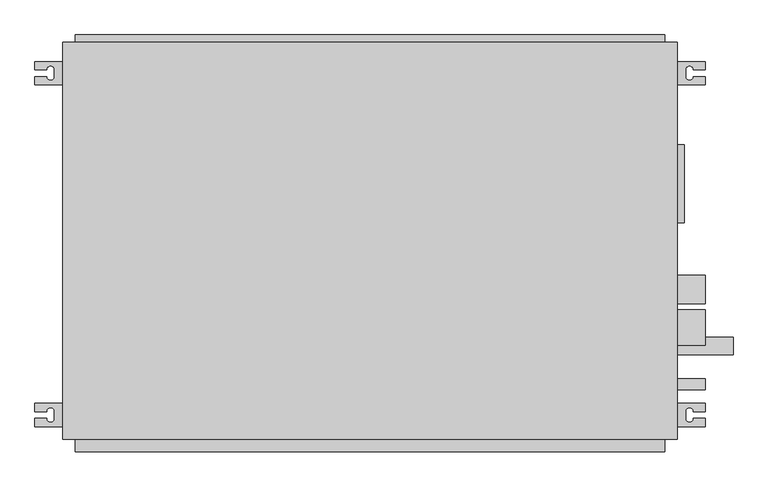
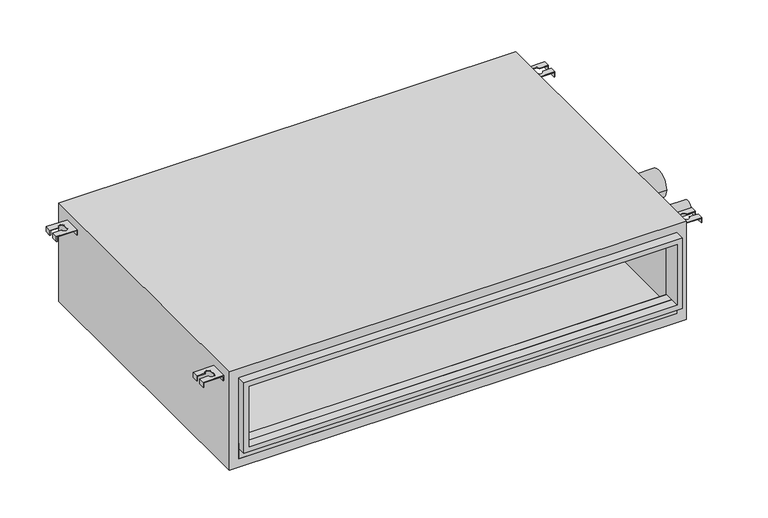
"""IFC4 building model written with IfcOpenShell, lengths in millimetres: proxy geometry, PEFY-P-NMAU-E_Medium_Static_Ducted : PEFY-P30NMAU-E."""

from ifc_helpers import new_model, si_unit, point, frame, frame_2d, origin, place, context, project, spatial, polyline, circle_curve, trimmed, segment, composite_curve, outline, extrude, source, transform, mapped, element, save
from ifc_brep_helpers import plane_surface, revolved_surface, advanced_brep


def mechanical_equipment_d42a0ae8(model_context):
    return source(origin(), model_context, "Body", "SolidModel", [
        advanced_brep(
        [(-610.087243, -231.05, 249.2375), (-610.087243, -246.05, 249.2375), (-589.080993, -246.05, 249.2375), (-575.080993, -246.05, 249.2375), (-575.080993, -258.05, 249.2375), (-589.080993, -258.05, 249.2375), (-610.087243, -258.05, 249.2375), (-610.087243, -273.05, 249.2375), (-560.080993, -273.05, 249.2375), (-560.080993, -231.05, 249.2375), (-610.087243, -231.05, 236.4972162), (-608.499243, -231.05, 236.4972162), (-608.499243, -246.05, 236.4972162), (-610.087243, -246.05, 236.4972162), (-608.499243, -273.05, 236.4972162), (-610.087243, -273.05, 236.4972162), (-610.087243, -258.05, 236.4972162), (-608.499243, -258.05, 236.4972162), (-560.080993, -231.05, 236.4972162), (-560.080993, -273.05, 236.4972162), (-561.668993, -273.05, 236.4972162), (-561.668993, -231.05, 236.4972162), (-608.499243, -246.05, 247.65), (-589.080993, -246.05, 247.65), (-608.499243, -231.05, 247.65), (-561.668993, -231.05, 247.65), (-608.499243, -258.05, 247.65), (-608.499243, -273.05, 247.65), (-589.080993, -258.05, 247.65), (-561.668993, -273.05, 247.65), (-575.080993, -258.05, 247.65), (-575.080993, -246.05, 247.65)],
        [
            (0, 1),
            (1, 2),
            (2, 3, circle_curve(frame((-582.080993, -246.05, 249.2375), z_axis=(0.0, 0.0, -1.0), x_axis=(1.0, 0.0, 0.0)), 7.0)),
            (3, 4),
            (4, 5, circle_curve(frame((-582.080993, -258.05, 249.2375), z_axis=(0.0, 0.0, -1.0), x_axis=(1.0, 0.0, 0.0)), 7.0)),
            (5, 6),
            (6, 7),
            (7, 8),
            (8, 9),
            (9, 0),
            (10, 11),
            (11, 12),
            (12, 13),
            (13, 10),
            (14, 15),
            (15, 16),
            (16, 17),
            (17, 14),
            (18, 19),
            (19, 20),
            (20, 21),
            (21, 18),
            (13, 1),
            (0, 10),
            (12, 22),
            (22, 23),
            (23, 2),
            (11, 24),
            (24, 22),
            (9, 18),
            (21, 25),
            (25, 24),
            (17, 26),
            (26, 27),
            (27, 14),
            (5, 28),
            (28, 26),
            (16, 6),
            (15, 7),
            (27, 29),
            (29, 20),
            (19, 8),
            (29, 25),
            (30, 31),
            (31, 23, circle_curve(frame((-582.080993, -246.05, 247.65), z_axis=(0.0, 0.0, 1.0), x_axis=(1.0, 0.0, 0.0)), 7.0)),
            (28, 30, circle_curve(frame((-582.080993, -258.05, 247.65), z_axis=(0.0, 0.0, 1.0), x_axis=(1.0, 0.0, 0.0)), 7.0)),
            (4, 30),
            (31, 3),
        ],
        [
            plane_surface(frame((-610.087243, -231.05, 249.2375), z_axis=(0.0, 0.0, 1.0), x_axis=(0.0, -1.0, 0.0))),
            plane_surface(frame((-610.087243, -231.05, 236.4972162), z_axis=(0.0, 0.0, -1.0), x_axis=(0.0, 1.0, 0.0))),
            plane_surface(frame((-610.087243, -231.05, 249.2375), z_axis=(-1.0, 0.0, 0.0), x_axis=(0.0, 0.0, -1.0))),
            plane_surface(frame((-610.087243, -246.05, 249.2375), z_axis=(0.0, -1.0, 0.0), x_axis=(0.0, 0.0, -1.0))),
            plane_surface(frame((-608.499243, -246.05, 249.2375), z_axis=(1.0, 0.0, 0.0), x_axis=(0.0, 0.0, -1.0))),
            plane_surface(frame((-608.499243, -231.05, 249.2375), z_axis=(0.0, 1.0, 0.0), x_axis=(0.0, 0.0, -1.0))),
            plane_surface(frame((-608.499243, -273.05, 249.2375), z_axis=(1.0, 0.0, 0.0), x_axis=(0.0, 0.0, -1.0))),
            plane_surface(frame((-608.499243, -258.05, 249.2375), z_axis=(0.0, 1.0, 0.0), x_axis=(0.0, 0.0, -1.0))),
            plane_surface(frame((-610.087243, -258.05, 249.2375), z_axis=(-1.0, 0.0, 0.0), x_axis=(0.0, 0.0, -1.0))),
            plane_surface(frame((-610.087243, -273.05, 249.2375), z_axis=(0.0, -1.0, 0.0), x_axis=(0.0, 0.0, -1.0))),
            plane_surface(frame((-561.668993, -231.05, 249.2375), z_axis=(-1.0, 0.0, 0.0), x_axis=(0.0, 0.0, -1.0))),
            plane_surface(frame((-560.080993, -273.05, 249.2375), z_axis=(1.0, 0.0, 0.0), x_axis=(0.0, 0.0, -1.0))),
            plane_surface(frame((-575.080993, -258.05, 247.65), z_axis=(0.0, 0.0, -1.0), x_axis=(0.0, 1.0, 0.0))),
            revolved_surface(polyline([(-575.080993, -258.05, 247.65), (-575.080993, -258.05, 249.2375)]), (-582.080993, -258.05, 247.65), (0.0, 0.0, -1.0)),
            revolved_surface(polyline([(-575.080993, -246.05, 247.65), (-575.080993, -246.05, 249.2375)]), (-582.080993, -246.05, 247.65), (0.0, 0.0, -1.0)),
            plane_surface(frame((-575.080993, -246.05, 249.2375), z_axis=(-1.0, 0.0, 0.0), x_axis=(0.0, 0.0, -1.0))),
        ],
        [
            (0, [[1, 2, 3, 4, 5, 6, 7, 8, 9, 10]]),
            (1, [[11, 12, 13, 14]]),
            (1, [[15, 16, 17, 18]]),
            (1, [[19, 20, 21, 22]]),
            (2, [[23, -1, 24, -14]]),
            (3, [[-2, -23, -13, 25, 26, 27]]),
            (4, [[-12, 28, 29, -25]]),
            (5, [[-10, 30, -22, 31, 32, -28, -11, -24]]),
            (6, [[-18, 33, 34, 35]]),
            (7, [[-6, 36, 37, -33, -17, 38]]),
            (8, [[39, -7, -38, -16]]),
            (9, [[-8, -39, -15, -35, 40, 41, -20, 42]]),
            (10, [[-21, -41, 43, -31]]),
            (11, [[-30, -9, -42, -19]]),
            (12, [[44, 45, -26, -29, -32, -43, -40, -34, -37, 46]]),
            (13, [[-5, 47, -46, -36]]),
            (14, [[-3, -27, -45, 48]]),
            (15, [[-4, -48, -44, -47]]),
        ],
    ),
        advanced_brep(
        [(590.062757, -231.05, 249.2375), (540.056507, -231.05, 249.2375), (540.056507, -273.05, 249.2375), (590.062757, -273.05, 249.2375), (590.062757, -258.05, 249.2375), (569.056507, -258.05, 249.2375), (555.056507, -258.05, 249.2375), (555.056507, -246.05, 249.2375), (569.056507, -246.05, 249.2375), (590.062757, -246.05, 249.2375), (590.062757, -231.05, 236.4972162), (590.062757, -246.05, 236.4972162), (588.474757, -246.05, 236.4972162), (588.474757, -231.05, 236.4972162), (588.474757, -273.05, 236.4972162), (588.474757, -258.05, 236.4972162), (590.062757, -258.05, 236.4972162), (590.062757, -273.05, 236.4972162), (540.056507, -231.05, 236.4972162), (541.644507, -231.05, 236.4972162), (541.644507, -273.05, 236.4972162), (540.056507, -273.05, 236.4972162), (569.056507, -246.05, 247.65), (588.474757, -246.05, 247.65), (588.474757, -231.05, 247.65), (541.644507, -231.05, 247.65), (588.474757, -273.05, 247.65), (588.474757, -258.05, 247.65), (569.056507, -258.05, 247.65), (541.644507, -273.05, 247.65), (555.056507, -258.05, 247.65), (555.056507, -246.05, 247.65)],
        [
            (0, 1),
            (1, 2),
            (2, 3),
            (3, 4),
            (4, 5),
            (5, 6, circle_curve(frame((562.056507, -258.05, 249.2375), z_axis=(0.0, 0.0, -1.0), x_axis=(-1.0, 0.0, 0.0)), 7.0)),
            (6, 7),
            (7, 8, circle_curve(frame((562.056507, -246.05, 249.2375), z_axis=(0.0, 0.0, -1.0), x_axis=(-1.0, 0.0, 0.0)), 7.0)),
            (8, 9),
            (9, 0),
            (10, 11),
            (11, 12),
            (12, 13),
            (13, 10),
            (14, 15),
            (15, 16),
            (16, 17),
            (17, 14),
            (18, 19),
            (19, 20),
            (20, 21),
            (21, 18),
            (10, 0),
            (9, 11),
            (8, 22),
            (22, 23),
            (23, 12),
            (23, 24),
            (24, 13),
            (24, 25),
            (25, 19),
            (18, 1),
            (14, 26),
            (26, 27),
            (27, 15),
            (4, 16),
            (27, 28),
            (28, 5),
            (3, 17),
            (2, 21),
            (20, 29),
            (29, 26),
            (25, 29),
            (30, 28, circle_curve(frame((562.056507, -258.05, 247.65), z_axis=(0.0, 0.0, 1.0), x_axis=(-1.0, 0.0, 0.0)), 7.0)),
            (22, 31, circle_curve(frame((562.056507, -246.05, 247.65), z_axis=(0.0, 0.0, 1.0), x_axis=(-1.0, 0.0, 0.0)), 7.0)),
            (31, 30),
            (30, 6),
            (7, 31),
        ],
        [
            plane_surface(frame((590.062757, -231.05, 249.2375), z_axis=(0.0, 0.0, 1.0), x_axis=(0.0, -1.0, 0.0))),
            plane_surface(frame((590.062757, -231.05, 236.4972162), z_axis=(0.0, 0.0, -1.0), x_axis=(0.0, 1.0, 0.0))),
            plane_surface(frame((590.062757, -231.05, 249.2375), z_axis=(1.0, 0.0, 0.0), x_axis=(0.0, 0.0, -1.0))),
            plane_surface(frame((590.062757, -246.05, 249.2375), z_axis=(0.0, -1.0, 0.0), x_axis=(0.0, 0.0, -1.0))),
            plane_surface(frame((588.474757, -246.05, 249.2375), z_axis=(-1.0, 0.0, 0.0), x_axis=(0.0, 0.0, -1.0))),
            plane_surface(frame((588.474757, -231.05, 249.2375), z_axis=(0.0, 1.0, 0.0), x_axis=(0.0, 0.0, -1.0))),
            plane_surface(frame((588.474757, -273.05, 249.2375), z_axis=(-1.0, 0.0, 0.0), x_axis=(0.0, 0.0, -1.0))),
            plane_surface(frame((588.474757, -258.05, 249.2375), z_axis=(0.0, 1.0, 0.0), x_axis=(0.0, 0.0, -1.0))),
            plane_surface(frame((590.062757, -258.05, 249.2375), z_axis=(1.0, 0.0, 0.0), x_axis=(0.0, 0.0, -1.0))),
            plane_surface(frame((590.062757, -273.05, 249.2375), z_axis=(0.0, -1.0, 0.0), x_axis=(0.0, 0.0, -1.0))),
            plane_surface(frame((541.644507, -231.05, 249.2375), z_axis=(1.0, 0.0, 0.0), x_axis=(0.0, 0.0, -1.0))),
            plane_surface(frame((540.056507, -273.05, 249.2375), z_axis=(-1.0, 0.0, 0.0), x_axis=(0.0, 0.0, -1.0))),
            plane_surface(frame((555.056507, -258.05, 247.65), z_axis=(0.0, 0.0, -1.0), x_axis=(0.0, 1.0, 0.0))),
            revolved_surface(polyline([(555.056507, -258.05, 247.65), (555.056507, -258.05, 249.2375)]), (562.056507, -258.05, 247.65), (0.0, 0.0, -1.0)),
            revolved_surface(polyline([(555.056507, -246.05, 247.65), (555.056507, -246.05, 249.2375)]), (562.056507, -246.05, 247.65), (0.0, 0.0, -1.0)),
            plane_surface(frame((555.056507, -246.05, 249.2375), z_axis=(1.0, 0.0, 0.0), x_axis=(0.0, 0.0, -1.0))),
        ],
        [
            (0, [[1, 2, 3, 4, 5, 6, 7, 8, 9, 10]]),
            (1, [[11, 12, 13, 14]]),
            (1, [[15, 16, 17, 18]]),
            (1, [[19, 20, 21, 22]]),
            (2, [[-11, 23, -10, 24]]),
            (3, [[25, 26, 27, -12, -24, -9]]),
            (4, [[-27, 28, 29, -13]]),
            (5, [[-23, -14, -29, 30, 31, -19, 32, -1]]),
            (6, [[33, 34, 35, -15]]),
            (7, [[36, -16, -35, 37, 38, -5]]),
            (8, [[-17, -36, -4, 39]]),
            (9, [[40, -21, 41, 42, -33, -18, -39, -3]]),
            (10, [[-31, 43, -41, -20]]),
            (11, [[-22, -40, -2, -32]]),
            (12, [[44, -37, -34, -42, -43, -30, -28, -26, 45, 46]]),
            (13, [[-38, -44, 47, -6]]),
            (14, [[48, -45, -25, -8]]),
            (15, [[-47, -46, -48, -7]]),
        ],
    ),
        advanced_brep(
        [(-610.087243, 339.0, 249.2375), (-560.080993, 339.0, 249.2375), (-560.080993, 381.0, 249.2375), (-610.087243, 381.0, 249.2375), (-610.087243, 366.0, 249.2375), (-589.080993, 366.0, 249.2375), (-575.080993, 366.0, 249.2375), (-575.080993, 354.0, 249.2375), (-589.080993, 354.0, 249.2375), (-610.087243, 354.0, 249.2375), (-610.087243, 339.0, 236.4972162), (-610.087243, 354.0, 236.4972162), (-608.499243, 354.0, 236.4972162), (-608.499243, 339.0, 236.4972162), (-608.499243, 381.0, 236.4972162), (-608.499243, 366.0, 236.4972162), (-610.087243, 366.0, 236.4972162), (-610.087243, 381.0, 236.4972162), (-560.080993, 339.0, 236.4972162), (-561.668993, 339.0, 236.4972162), (-561.668993, 381.0, 236.4972162), (-560.080993, 381.0, 236.4972162), (-589.080993, 354.0, 247.65), (-608.499243, 354.0, 247.65), (-608.499243, 339.0, 247.65), (-561.668993, 339.0, 247.65), (-608.499243, 381.0, 247.65), (-608.499243, 366.0, 247.65), (-589.080993, 366.0, 247.65), (-561.668993, 381.0, 247.65), (-575.080993, 366.0, 247.65), (-575.080993, 354.0, 247.65)],
        [
            (0, 1),
            (1, 2),
            (2, 3),
            (3, 4),
            (4, 5),
            (5, 6, circle_curve(frame((-582.080993, 366.0, 249.2375), z_axis=(0.0, 0.0, -1.0), x_axis=(1.0, 0.0, 0.0)), 7.0)),
            (6, 7),
            (7, 8, circle_curve(frame((-582.080993, 354.0, 249.2375), z_axis=(0.0, 0.0, -1.0), x_axis=(1.0, 0.0, 0.0)), 7.0)),
            (8, 9),
            (9, 0),
            (10, 11),
            (11, 12),
            (12, 13),
            (13, 10),
            (14, 15),
            (15, 16),
            (16, 17),
            (17, 14),
            (18, 19),
            (19, 20),
            (20, 21),
            (21, 18),
            (10, 0),
            (9, 11),
            (8, 22),
            (22, 23),
            (23, 12),
            (23, 24),
            (24, 13),
            (24, 25),
            (25, 19),
            (18, 1),
            (14, 26),
            (26, 27),
            (27, 15),
            (4, 16),
            (27, 28),
            (28, 5),
            (3, 17),
            (2, 21),
            (20, 29),
            (29, 26),
            (25, 29),
            (30, 28, circle_curve(frame((-582.080993, 366.0, 247.65), z_axis=(0.0, 0.0, 1.0), x_axis=(1.0, 0.0, 0.0)), 7.0)),
            (22, 31, circle_curve(frame((-582.080993, 354.0, 247.65), z_axis=(0.0, 0.0, 1.0), x_axis=(1.0, 0.0, 0.0)), 7.0)),
            (31, 30),
            (30, 6),
            (7, 31),
        ],
        [
            plane_surface(frame((-610.087243, 339.0, 249.2375), z_axis=(0.0, 0.0, 1.0), x_axis=(0.0, 1.0, 0.0))),
            plane_surface(frame((-610.087243, 339.0, 236.4972162), z_axis=(0.0, 0.0, -1.0), x_axis=(0.0, -1.0, 0.0))),
            plane_surface(frame((-610.087243, 339.0, 249.2375), z_axis=(-1.0, 0.0, 0.0), x_axis=(0.0, 0.0, -1.0))),
            plane_surface(frame((-610.087243, 354.0, 249.2375), z_axis=(0.0, 1.0, 0.0), x_axis=(0.0, 0.0, -1.0))),
            plane_surface(frame((-608.499243, 354.0, 249.2375), z_axis=(1.0, 0.0, 0.0), x_axis=(0.0, 0.0, -1.0))),
            plane_surface(frame((-608.499243, 339.0, 249.2375), z_axis=(0.0, -1.0, 0.0), x_axis=(0.0, 0.0, -1.0))),
            plane_surface(frame((-608.499243, 381.0, 249.2375), z_axis=(1.0, 0.0, 0.0), x_axis=(0.0, 0.0, -1.0))),
            plane_surface(frame((-608.499243, 366.0, 249.2375), z_axis=(0.0, -1.0, 0.0), x_axis=(0.0, 0.0, -1.0))),
            plane_surface(frame((-610.087243, 366.0, 249.2375), z_axis=(-1.0, 0.0, 0.0), x_axis=(0.0, 0.0, -1.0))),
            plane_surface(frame((-610.087243, 381.0, 249.2375), z_axis=(0.0, 1.0, 0.0), x_axis=(0.0, 0.0, -1.0))),
            plane_surface(frame((-561.668993, 339.0, 249.2375), z_axis=(-1.0, 0.0, 0.0), x_axis=(0.0, 0.0, -1.0))),
            plane_surface(frame((-560.080993, 381.0, 249.2375), z_axis=(1.0, 0.0, 0.0), x_axis=(0.0, 0.0, -1.0))),
            plane_surface(frame((-575.080993, 366.0, 247.65), z_axis=(0.0, 0.0, -1.0), x_axis=(0.0, -1.0, 0.0))),
            revolved_surface(polyline([(-575.080993, 366.0, 247.65), (-575.080993, 366.0, 249.2375)]), (-582.080993, 366.0, 247.65), (0.0, 0.0, -1.0)),
            revolved_surface(polyline([(-575.080993, 354.0, 247.65), (-575.080993, 354.0, 249.2375)]), (-582.080993, 354.0, 247.65), (0.0, 0.0, -1.0)),
            plane_surface(frame((-575.080993, 354.0, 249.2375), z_axis=(-1.0, 0.0, 0.0), x_axis=(0.0, 0.0, -1.0))),
        ],
        [
            (0, [[1, 2, 3, 4, 5, 6, 7, 8, 9, 10]]),
            (1, [[11, 12, 13, 14]]),
            (1, [[15, 16, 17, 18]]),
            (1, [[19, 20, 21, 22]]),
            (2, [[-11, 23, -10, 24]]),
            (3, [[25, 26, 27, -12, -24, -9]]),
            (4, [[-27, 28, 29, -13]]),
            (5, [[-23, -14, -29, 30, 31, -19, 32, -1]]),
            (6, [[33, 34, 35, -15]]),
            (7, [[36, -16, -35, 37, 38, -5]]),
            (8, [[-17, -36, -4, 39]]),
            (9, [[40, -21, 41, 42, -33, -18, -39, -3]]),
            (10, [[-31, 43, -41, -20]]),
            (11, [[-22, -40, -2, -32]]),
            (12, [[44, -37, -34, -42, -43, -30, -28, -26, 45, 46]]),
            (13, [[-38, -44, 47, -6]]),
            (14, [[48, -45, -25, -8]]),
            (15, [[-47, -46, -48, -7]]),
        ],
    ),
        advanced_brep(
        [(590.062757, 339.0, 249.2375), (590.062757, 354.0, 249.2375), (569.056507, 354.0, 249.2375), (555.056507, 354.0, 249.2375), (555.056507, 366.0, 249.2375), (569.056507, 366.0, 249.2375), (590.062757, 366.0, 249.2375), (590.062757, 381.0, 249.2375), (540.056507, 381.0, 249.2375), (540.056507, 339.0, 249.2375), (590.062757, 339.0, 236.4972162), (588.474757, 339.0, 236.4972162), (588.474757, 354.0, 236.4972162), (590.062757, 354.0, 236.4972162), (588.474757, 381.0, 236.4972162), (590.062757, 381.0, 236.4972162), (590.062757, 366.0, 236.4972162), (588.474757, 366.0, 236.4972162), (540.056507, 339.0, 236.4972162), (540.056507, 381.0, 236.4972162), (541.644507, 381.0, 236.4972162), (541.644507, 339.0, 236.4972162), (588.474757, 354.0, 247.65), (569.056507, 354.0, 247.65), (588.474757, 339.0, 247.65), (541.644507, 339.0, 247.65), (588.474757, 366.0, 247.65), (588.474757, 381.0, 247.65), (569.056507, 366.0, 247.65), (541.644507, 381.0, 247.65), (555.056507, 366.0, 247.65), (555.056507, 354.0, 247.65)],
        [
            (0, 1),
            (1, 2),
            (2, 3, circle_curve(frame((562.056507, 354.0, 249.2375), z_axis=(0.0, 0.0, -1.0), x_axis=(-1.0, 0.0, 0.0)), 7.0)),
            (3, 4),
            (4, 5, circle_curve(frame((562.056507, 366.0, 249.2375), z_axis=(0.0, 0.0, -1.0), x_axis=(-1.0, 0.0, 0.0)), 7.0)),
            (5, 6),
            (6, 7),
            (7, 8),
            (8, 9),
            (9, 0),
            (10, 11),
            (11, 12),
            (12, 13),
            (13, 10),
            (14, 15),
            (15, 16),
            (16, 17),
            (17, 14),
            (18, 19),
            (19, 20),
            (20, 21),
            (21, 18),
            (13, 1),
            (0, 10),
            (12, 22),
            (22, 23),
            (23, 2),
            (11, 24),
            (24, 22),
            (9, 18),
            (21, 25),
            (25, 24),
            (17, 26),
            (26, 27),
            (27, 14),
            (5, 28),
            (28, 26),
            (16, 6),
            (15, 7),
            (27, 29),
            (29, 20),
            (19, 8),
            (29, 25),
            (30, 31),
            (31, 23, circle_curve(frame((562.056507, 354.0, 247.65), z_axis=(0.0, 0.0, 1.0), x_axis=(-1.0, 0.0, 0.0)), 7.0)),
            (28, 30, circle_curve(frame((562.056507, 366.0, 247.65), z_axis=(0.0, 0.0, 1.0), x_axis=(-1.0, 0.0, 0.0)), 7.0)),
            (4, 30),
            (31, 3),
        ],
        [
            plane_surface(frame((590.062757, 339.0, 249.2375), z_axis=(0.0, 0.0, 1.0), x_axis=(0.0, 1.0, 0.0))),
            plane_surface(frame((590.062757, 339.0, 236.4972162), z_axis=(0.0, 0.0, -1.0), x_axis=(0.0, -1.0, 0.0))),
            plane_surface(frame((590.062757, 339.0, 249.2375), z_axis=(1.0, 0.0, 0.0), x_axis=(0.0, 0.0, -1.0))),
            plane_surface(frame((590.062757, 354.0, 249.2375), z_axis=(0.0, 1.0, 0.0), x_axis=(0.0, 0.0, -1.0))),
            plane_surface(frame((588.474757, 354.0, 249.2375), z_axis=(-1.0, 0.0, 0.0), x_axis=(0.0, 0.0, -1.0))),
            plane_surface(frame((588.474757, 339.0, 249.2375), z_axis=(0.0, -1.0, 0.0), x_axis=(0.0, 0.0, -1.0))),
            plane_surface(frame((588.474757, 381.0, 249.2375), z_axis=(-1.0, 0.0, 0.0), x_axis=(0.0, 0.0, -1.0))),
            plane_surface(frame((588.474757, 366.0, 249.2375), z_axis=(0.0, -1.0, 0.0), x_axis=(0.0, 0.0, -1.0))),
            plane_surface(frame((590.062757, 366.0, 249.2375), z_axis=(1.0, 0.0, 0.0), x_axis=(0.0, 0.0, -1.0))),
            plane_surface(frame((590.062757, 381.0, 249.2375), z_axis=(0.0, 1.0, 0.0), x_axis=(0.0, 0.0, -1.0))),
            plane_surface(frame((541.644507, 339.0, 249.2375), z_axis=(1.0, 0.0, 0.0), x_axis=(0.0, 0.0, -1.0))),
            plane_surface(frame((540.056507, 381.0, 249.2375), z_axis=(-1.0, 0.0, 0.0), x_axis=(0.0, 0.0, -1.0))),
            plane_surface(frame((555.056507, 366.0, 247.65), z_axis=(0.0, 0.0, -1.0), x_axis=(0.0, -1.0, 0.0))),
            revolved_surface(polyline([(555.056507, 366.0, 247.65), (555.056507, 366.0, 249.2375)]), (562.056507, 366.0, 247.65), (0.0, 0.0, -1.0)),
            revolved_surface(polyline([(555.056507, 354.0, 247.65), (555.056507, 354.0, 249.2375)]), (562.056507, 354.0, 247.65), (0.0, 0.0, -1.0)),
            plane_surface(frame((555.056507, 354.0, 249.2375), z_axis=(1.0, 0.0, 0.0), x_axis=(0.0, 0.0, -1.0))),
        ],
        [
            (0, [[1, 2, 3, 4, 5, 6, 7, 8, 9, 10]]),
            (1, [[11, 12, 13, 14]]),
            (1, [[15, 16, 17, 18]]),
            (1, [[19, 20, 21, 22]]),
            (2, [[23, -1, 24, -14]]),
            (3, [[-2, -23, -13, 25, 26, 27]]),
            (4, [[-12, 28, 29, -25]]),
            (5, [[-10, 30, -22, 31, 32, -28, -11, -24]]),
            (6, [[-18, 33, 34, 35]]),
            (7, [[-6, 36, 37, -33, -17, 38]]),
            (8, [[39, -7, -38, -16]]),
            (9, [[-8, -39, -15, -35, 40, 41, -20, 42]]),
            (10, [[-21, -41, 43, -31]]),
            (11, [[-30, -9, -42, -19]]),
            (12, [[44, 45, -26, -29, -32, -43, -40, -34, -37, 46]]),
            (13, [[-5, 47, -46, -36]]),
            (14, [[-3, -27, -45, 48]]),
            (15, [[-4, -48, -44, -47]]),
        ],
    ),
        extrude(outline(polyline([(517.831507, -295.275), (-537.855993, -295.275), (-537.855993, -273.05), (517.831507, -273.05), (517.831507, -295.275)])), frame((0.0, 0.0, 42.8625), z_axis=(0.0, 0.0, 1.0), x_axis=(1.0, 0.0, 0.0)), (0.0, 0.0, 1.0), 39.6875),
        extrude(outline(polyline([(249.2375, 517.831507), (249.2375, -537.855993), (69.85, -537.855993), (69.85, 517.831507), (249.2375, 517.831507)]), holes=[polyline([(82.55, 505.131507), (82.55, -525.155993), (236.5375, -525.155993), (236.5375, 505.131507), (82.55, 505.131507)])]), frame((0.0, -317.5, 0.0), z_axis=(0.0, 1.0, 0.0), x_axis=(0.0, 0.0, 1.0)), (0.0, 0.0, 1.0), 44.45),
        extrude(outline(polyline([(517.831507, 415.925), (-537.855993, 415.925), (-537.855993, 428.625), (517.831507, 428.625), (517.831507, 415.925)])), frame((0.0, 0.0, 42.8625), z_axis=(0.0, 0.0, 1.0), x_axis=(1.0, 0.0, 0.0)), (0.0, 0.0, 1.0), 206.375),
        extrude(outline(polyline([(271.4625, 540.056507), (271.4625, -560.080993), (20.6375, -560.080993), (20.6375, 540.056507), (271.4625, 540.056507)]), holes=[polyline([(42.8625, -537.855993), (249.2375, -537.855993), (249.2375, 517.831507), (42.8625, 517.831507), (42.8625, -537.855993)])]), frame((0.0, -295.275, 0.0), z_axis=(0.0, 1.0, 0.0), x_axis=(0.0, 0.0, 1.0)), (0.0, 0.0, 1.0), 711.2),
        extrude(outline(composite_curve([segment(trimmed(circle_curve(frame_2d((-26.9875, 109.5375)), 25.4), [point((-1.5875, 109.5375))], [point((-52.3875, 109.5375))], False, "CARTESIAN"), True, "CONTINUOUS"), segment(trimmed(circle_curve(frame_2d((-26.9875, 109.5375)), 25.4), [point((-52.3875, 109.5375))], [point((-1.5875, 109.5375))], False, "CARTESIAN"), True, "CONTINUOUS")], self_intersect=False)), frame((540.056507, 0.0, 0.0), z_axis=(1.0, 0.0, 0.0), x_axis=(0.0, 1.0, 0.0)), (0.0, 0.0, 1.0), 50.00625),
        extrude(outline(composite_curve([segment(trimmed(circle_curve(frame_2d((-128.5875, 171.45)), 15.875), [point((-112.7125, 171.45))], [point((-144.4625, 171.45))], False, "CARTESIAN"), True, "CONTINUOUS"), segment(trimmed(circle_curve(frame_2d((-128.5875, 171.45)), 15.875), [point((-144.4625, 171.45))], [point((-112.7125, 171.45))], False, "CARTESIAN"), True, "CONTINUOUS")], self_intersect=False)), frame((540.056507, 0.0, 0.0), z_axis=(1.0, 0.0, 0.0), x_axis=(0.0, 1.0, 0.0)), (0.0, 0.0, 1.0), 100.0125),
        extrude(outline(composite_curve([segment(trimmed(circle_curve(frame_2d((-95.25, 230.1875)), 31.75), [point((-63.5, 230.1875))], [point((-127.0, 230.1875))], False, "CARTESIAN"), True, "CONTINUOUS"), segment(trimmed(circle_curve(frame_2d((-95.25, 230.1875)), 31.75), [point((-127.0, 230.1875))], [point((-63.5, 230.1875))], False, "CARTESIAN"), True, "CONTINUOUS")], self_intersect=False)), frame((540.056507, 0.0, 0.0), z_axis=(1.0, 0.0, 0.0), x_axis=(0.0, 1.0, 0.0)), (0.0, 0.0, 1.0), 50.00625),
        extrude(outline(composite_curve([segment(trimmed(circle_curve(frame_2d((-196.85, 104.775)), 9.525), [point((-187.325, 104.775))], [point((-206.375, 104.775))], False, "CARTESIAN"), True, "CONTINUOUS"), segment(trimmed(circle_curve(frame_2d((-196.85, 104.775)), 9.525), [point((-206.375, 104.775))], [point((-187.325, 104.775))], False, "CARTESIAN"), True, "CONTINUOUS")], self_intersect=False)), frame((540.056507, 0.0, 0.0), z_axis=(1.0, 0.0, 0.0), x_axis=(0.0, 1.0, 0.0)), (0.0, 0.0, 1.0), 50.00625),
        extrude(outline(polyline([(552.756507, 231.84375), (552.756507, 92.14375), (540.056507, 92.14375), (540.056507, 231.84375), (552.756507, 231.84375)])), frame((0.0, 0.0, 42.8625), z_axis=(0.0, 0.0, 1.0), x_axis=(1.0, 0.0, 0.0)), (0.0, 0.0, 1.0), 187.325),
    ])


if __name__ == "__main__":
    model = new_model("IFC4")
    model_context = context("Model", 3, world=origin())
    ifc_project = project(units=[si_unit("LENGTHUNIT", "METRE", prefix="MILLI")], contexts=[model_context])
    site = spatial("IfcSite", under=ifc_project)
    building = spatial("IfcBuilding", under=site)
    placement = place(None, origin())
    mechanical_equipment_shape = mechanical_equipment_d42a0ae8(model_context)
    element("IfcBuildingElementProxy", 1, Name="PEFY-P-NMAU-E_Medium_Static_Ducted : PEFY-P30NMAU-E", ObjectType="PEFY-P-NMAU-E_Medium_Static_Ducted : PEFY-P30NMAU-E", at=placement, inside=building, context=model_context, shape_type="MappedRepresentation", body=[
        mapped(mechanical_equipment_shape, transform((0.0, 0.0, 0.0), x_axis=(1.0, 0.0, 0.0), y_axis=(0.0, 1.0, 0.0), z_axis=(0.0, 0.0, 1.0))),
    ])
    save(model, "model.ifc")
